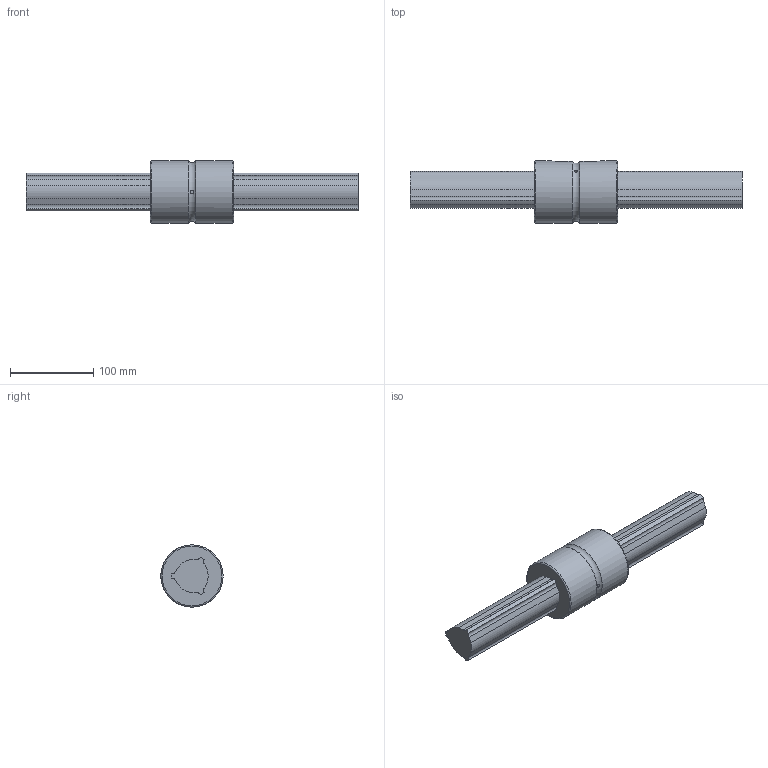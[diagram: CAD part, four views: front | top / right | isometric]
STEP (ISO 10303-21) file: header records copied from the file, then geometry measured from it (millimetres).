
FILE_DESCRIPTION(/* description */ ('STEP AP203'),/* implementation_level */ '2;1');
FILE_NAME(/* name */ 'LBS50+400L(1001500)',/* time_stamp */ '2024-05-23T11:58:36+02:00',/* author */ ('License CC BY-ND 4.0'),/* organization */ ('CADENAS'),/* preprocessor_version */ 'ST-DEVELOPER v19.3',/* originating_system */ 'PARTsolutions',/* authorisation */ ' ');
FILE_SCHEMA (('CONFIG_CONTROL_DESIGN'));
Length unit declared in the file: millimetre
Products named in the file (3): LBS50+400L(1001500); LBS50 Nut; LBS501400 Spline Shaft
Assembly tree (2 placements, depth 2):
  LBS50+400L(1001500)
    LBS50 Nut
    LBS501400 Spline Shaft
Bounding box: 400 x 75 x 75 mm (x, y, z)
Volume: 835043 mm3; surface area: 105099 mm2
Topology: 2 solids, 2 shells, 56 faces, 148 edges, 99 vertices
Faces by surface type: cylinder 31, plane 22, torus 3
Full cylindrical faces by diameter (mm): 4 x3, 75 x2
Entity records: 1804 total; most frequent: CARTESIAN_POINT 349, DIRECTION 306, ORIENTED_EDGE 272, EDGE_CURVE 136, AXIS2_PLACEMENT_3D 118, VERTEX_POINT 94, LINE 70, VECTOR 70
